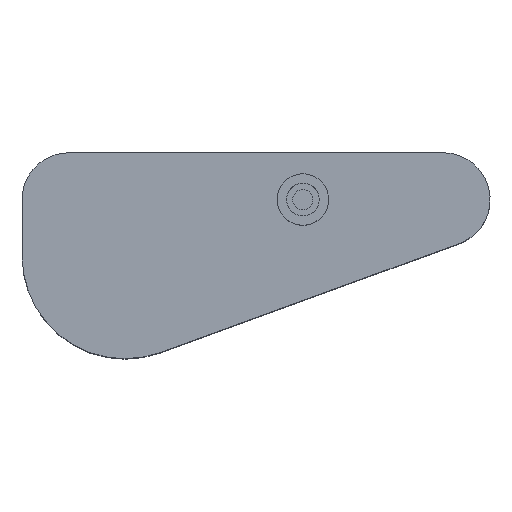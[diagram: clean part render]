
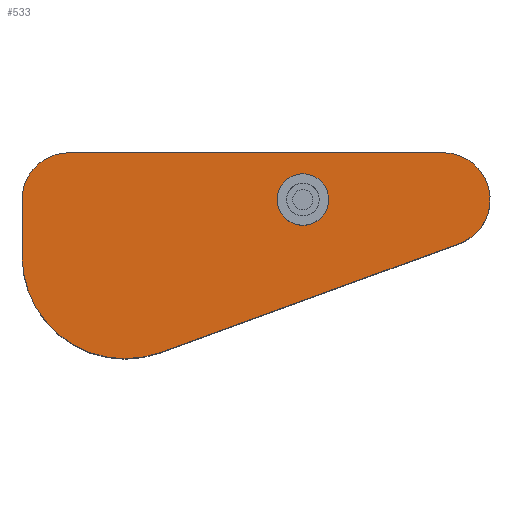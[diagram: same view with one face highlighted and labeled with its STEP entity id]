
A CAD part, top view. The second image highlights one B-rep face of the part: STEP entity #533.
In plain terms, the highlighted planar face has unit normal (0, 0, 1).
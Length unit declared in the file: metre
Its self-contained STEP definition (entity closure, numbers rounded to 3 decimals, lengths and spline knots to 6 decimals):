
#34=LINE('',#837,#80);
#47=LINE('',#873,#93);
#48=LINE('',#877,#94);
#80=VECTOR('',#669,1.);
#93=VECTOR('',#698,1.);
#94=VECTOR('',#701,1.);
#127=CIRCLE('',#582,0.0055);
#130=CIRCLE('',#589,0.01);
#134=CIRCLE('',#595,0.022);
#135=CIRCLE('',#596,0.01);
#190=ORIENTED_EDGE('',*,*,#317,.F.);
#191=ORIENTED_EDGE('',*,*,#330,.T.);
#192=ORIENTED_EDGE('',*,*,#331,.F.);
#193=ORIENTED_EDGE('',*,*,#332,.F.);
#194=ORIENTED_EDGE('',*,*,#333,.F.);
#195=ORIENTED_EDGE('',*,*,#312,.F.);
#196=ORIENTED_EDGE('',*,*,#307,.T.);
#307=EDGE_CURVE('',#381,#381,#127,.T.);
#312=EDGE_CURVE('',#385,#386,#34,.T.);
#317=EDGE_CURVE('',#389,#385,#130,.T.);
#330=EDGE_CURVE('',#389,#401,#47,.T.);
#331=EDGE_CURVE('',#402,#401,#134,.T.);
#332=EDGE_CURVE('',#403,#402,#48,.T.);
#333=EDGE_CURVE('',#386,#403,#135,.T.);
#381=VERTEX_POINT('',#825);
#385=VERTEX_POINT('',#836);
#386=VERTEX_POINT('',#838);
#389=VERTEX_POINT('',#846);
#401=VERTEX_POINT('',#874);
#402=VERTEX_POINT('',#876);
#403=VERTEX_POINT('',#878);
#440=EDGE_LOOP('',(#190,#191,#192,#193,#194,#195));
#441=EDGE_LOOP('',(#196));
#481=FACE_BOUND('',#440,.T.);
#482=FACE_BOUND('',#441,.T.);
#510=PLANE('',#594);
#533=ADVANCED_FACE('',(#481,#482),#510,.F.);
#582=AXIS2_PLACEMENT_3D('',#824,#656,#657);
#589=AXIS2_PLACEMENT_3D('',#847,#677,#678);
#594=AXIS2_PLACEMENT_3D('',#872,#696,#697);
#595=AXIS2_PLACEMENT_3D('',#875,#699,#700);
#596=AXIS2_PLACEMENT_3D('',#879,#702,#703);
#656=DIRECTION('',(0.,0.,-1.));
#657=DIRECTION('',(-1.,0.,0.));
#669=DIRECTION('',(1.,0.,0.));
#677=DIRECTION('',(0.,0.,-1.));
#678=DIRECTION('',(-1.,0.,0.));
#696=DIRECTION('',(0.,0.,-1.));
#697=DIRECTION('',(1.,0.,0.));
#698=DIRECTION('',(0.,-1.,0.));
#699=DIRECTION('',(0.,0.,-1.));
#700=DIRECTION('',(1.,0.,0.));
#701=DIRECTION('',(-0.94,-0.342,0.));
#702=DIRECTION('',(0.,0.,-1.));
#703=DIRECTION('',(-1.,0.,0.));
#824=CARTESIAN_POINT('',(0.325,-0.0325,-0.0465));
#825=CARTESIAN_POINT('',(0.3195,-0.0325,-0.0465));
#836=CARTESIAN_POINT('',(0.275,-0.0225,-0.0465));
#837=CARTESIAN_POINT('',(0.3,-0.0225,-0.0465));
#838=CARTESIAN_POINT('',(0.355,-0.0225,-0.0465));
#846=CARTESIAN_POINT('',(0.265,-0.0325,-0.0465));
#847=CARTESIAN_POINT('',(0.275,-0.0325,-0.0465));
#872=CARTESIAN_POINT('',(0.3,-0.0325,-0.0465));
#873=CARTESIAN_POINT('',(0.265,-0.0385,-0.0465));
#874=CARTESIAN_POINT('',(0.265,-0.0445,-0.0465));
#875=CARTESIAN_POINT('',(0.287,-0.0445,-0.0465));
#876=CARTESIAN_POINT('',(0.294534,-0.06517,-0.0465));
#877=CARTESIAN_POINT('',(0.326254,-0.053609,-0.0465));
#878=CARTESIAN_POINT('',(0.357974,-0.042048,-0.0465));
#879=CARTESIAN_POINT('',(0.355,-0.0325,-0.0465));
